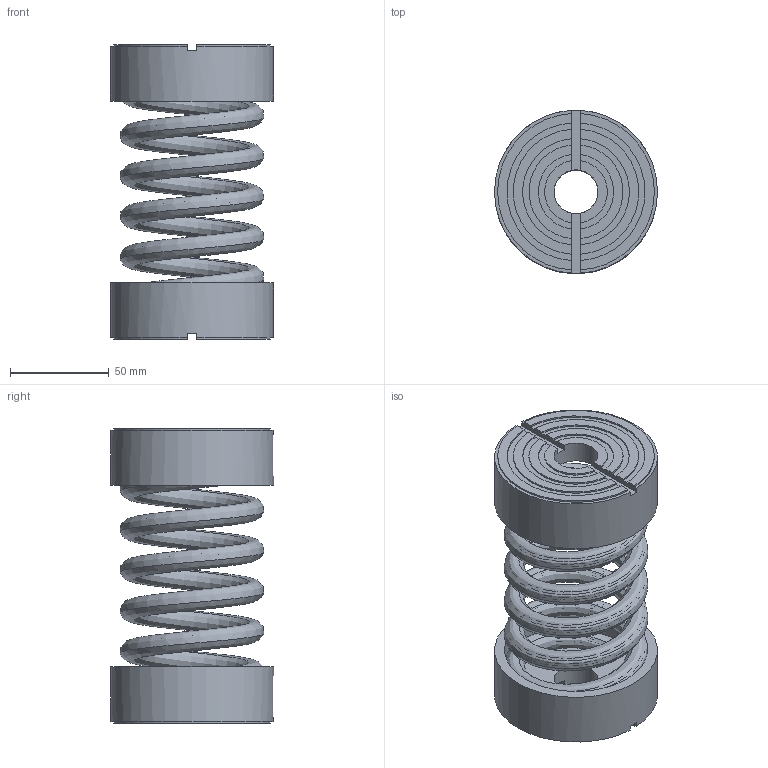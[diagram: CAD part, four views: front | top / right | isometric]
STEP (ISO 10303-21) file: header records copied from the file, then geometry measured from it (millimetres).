
FILE_DESCRIPTION(/* description */ (''),/* implementation_level */ '2;1');
FILE_NAME(/* name */ '\\Mleuckthor2\cad-proe_solids\WEBSITE FILES 05.22.13\STEP\IMF\IMF-C2-1870.stp',/* time_stamp */ '2016-03-07T09:02:07-05:00',/* author */ ('rramoutar'),/* organization */ ('Mason Industries Inc.'),/* preprocessor_version */ 'ST-DEVELOPER v15.6',/* originating_system */ 'Autodesk Inventor 2015',/* authorisation */ '');
FILE_SCHEMA (('CONFIG_CONTROL_DESIGN'));
Length unit declared in the file: inch
Products named in the file (1): IMF-C2-1870
Bounding box: 82.55 x 82.55 x 149.22 mm (x, y, z)
Volume: 179056.7 mm3; surface area: 147683.7 mm2
Topology: 5 solids, 7 shells, 128 faces, 342 edges, 228 vertices
Faces by surface type: plane 62, cylinder 44, bspline 22
Full cylindrical faces by diameter (mm): 22.225 x2, 29.369 x2, 30.162 x2, 72.231 x2, 73.025 x4, 82.55 x2
Entity records: 13582 total; most frequent: CARTESIAN_POINT 10324, ORIENTED_EDGE 648, DIRECTION 592, EDGE_CURVE 324, VERTEX_POINT 224, AXIS2_PLACEMENT_3D 209, LINE 174, VECTOR 174
